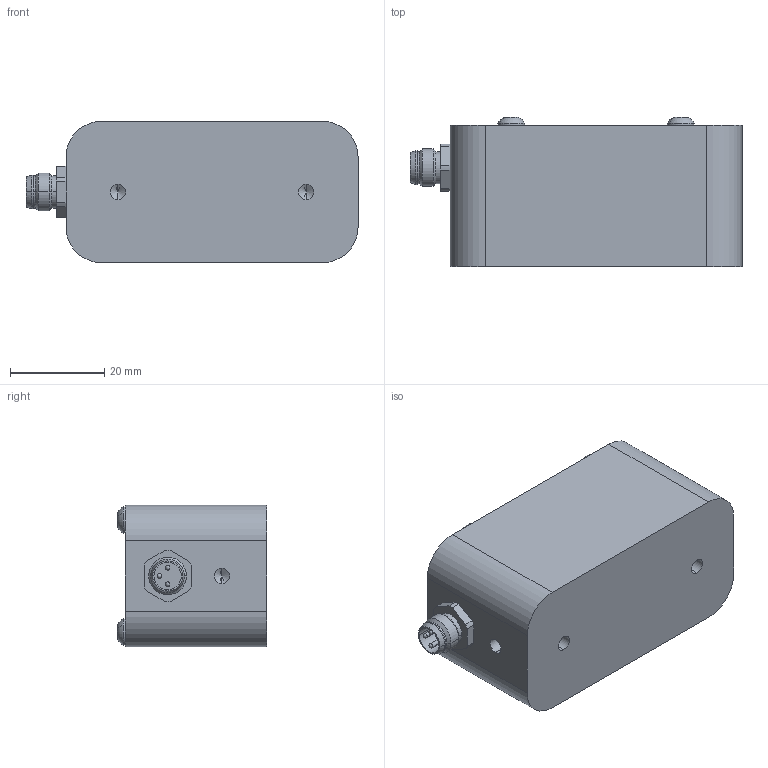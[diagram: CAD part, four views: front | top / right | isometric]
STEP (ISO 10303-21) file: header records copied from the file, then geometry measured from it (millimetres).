
FILE_DESCRIPTION (( 'STEP AP203' ), '1' );
FILE_NAME ('105811_30.STEP', '2016-05-17T15:07:18', ( '' ), ( '' ), 'SwSTEP 2.0', 'SolidWorks 2016', '' );
FILE_SCHEMA (( 'CONFIG_CONTROL_DESIGN' ));
Length unit declared in the file: millimetre
Products named in the file (7): socket button head screw_iso 5.7mm head dia_ISO 7380 - M3 x 6 --- 8N; spot_line_PCB V1_0_0; 105811_30; 105811_30_housing; socket button head screw_iso 5.7mm head dia_ISO 7380 - M3 x 8 --- 8N; 1500334; 105811_30_window
Assembly tree (10 placements, depth 2):
  105811_30
    105811_30_housing
    105811_30_window
    1500334
    socket button head screw_iso 5.7mm head dia_ISO 7380 - M3 x 8 --- 8N  x4
    socket button head screw_iso 5.7mm head dia_ISO 7380 - M3 x 6 --- 8N  x2
    spot_line_PCB V1_0_0
Bounding box: 70.5 x 31.65 x 30 mm (x, y, z)
Volume: 42373.2 mm3; surface area: 19097.7 mm2
Topology: 9 solids, 140 shells, 516 faces, 1674 edges, 1305 vertices
Faces by surface type: plane 239, cylinder 154, cone 94, bspline 17, torus 12
Entity records: 18659 total; most frequent: CARTESIAN_POINT 5738, DIRECTION 2475, ORIENTED_EDGE 2024, EDGE_CURVE 1412, VERTEX_POINT 1173, LINE 879, VECTOR 879, AXIS2_PLACEMENT_3D 798
